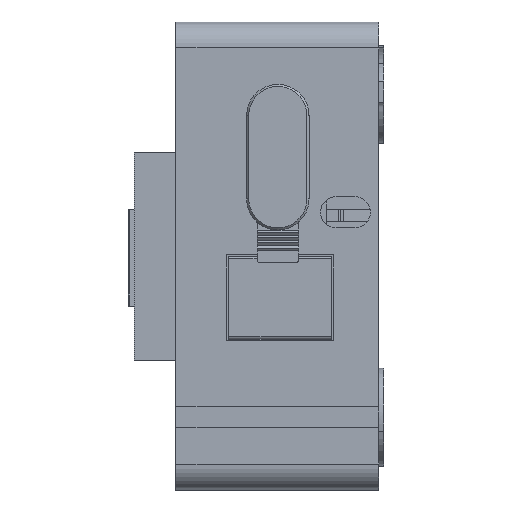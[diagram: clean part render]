
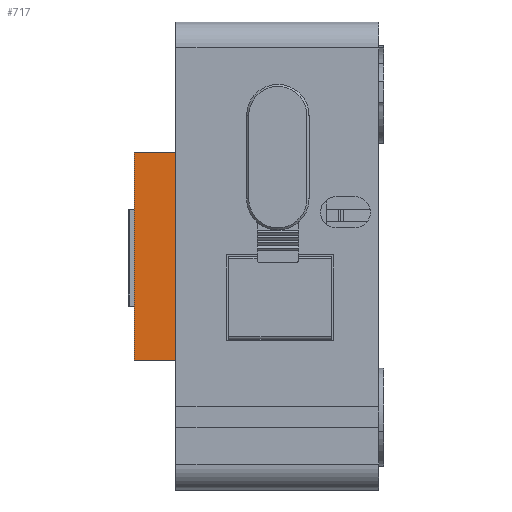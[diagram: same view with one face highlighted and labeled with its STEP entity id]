
A CAD part, left-side view. The second image highlights one B-rep face of the part: STEP entity #717.
In plain terms, the highlighted planar face has unit normal (-1, 0, 0).
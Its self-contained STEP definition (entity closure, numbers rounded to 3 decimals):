
#717 = ADVANCED_FACE( '', ( #2456 ), #2457, .T. );
#2456 = FACE_OUTER_BOUND( '', #4626, .T. );
#2457 = PLANE( '', #4627 );
#4626 = EDGE_LOOP( '', ( #11453, #11454, #11455, #11456, #11457, #11458, #11459, #11460 ) );
#4627 = AXIS2_PLACEMENT_3D( '', #11461, #11462, #11463 );
#11453 = ORIENTED_EDGE( '', *, *, #15960, .T. );
#11454 = ORIENTED_EDGE( '', *, *, #15886, .F. );
#11455 = ORIENTED_EDGE( '', *, *, #16968, .F. );
#11456 = ORIENTED_EDGE( '', *, *, #16878, .T. );
#11457 = ORIENTED_EDGE( '', *, *, #16969, .T. );
#11458 = ORIENTED_EDGE( '', *, *, #15870, .F. );
#11459 = ORIENTED_EDGE( '', *, *, #15957, .T. );
#11460 = ORIENTED_EDGE( '', *, *, #15968, .T. );
#11461 = CARTESIAN_POINT( '', ( 19.9, 23.5, 32.5 ) );
#11462 = DIRECTION( '', ( -1., 0., 0. ) );
#11463 = DIRECTION( '', ( 0., 1., 0. ) );
#15870 = EDGE_CURVE( '', #19867, #19869, #19870, .T. );
#15886 = EDGE_CURVE( '', #19899, #19901, #19902, .T. );
#15957 = EDGE_CURVE( '', #19867, #20029, #20031, .T. );
#15960 = EDGE_CURVE( '', #20032, #19901, #20036, .T. );
#15968 = EDGE_CURVE( '', #20029, #20032, #20047, .T. );
#16878 = EDGE_CURVE( '', #21529, #21527, #21530, .T. );
#16968 = EDGE_CURVE( '', #21529, #19899, #21666, .T. );
#16969 = EDGE_CURVE( '', #21527, #19869, #21667, .T. );
#19867 = VERTEX_POINT( '', #25876 );
#19869 = VERTEX_POINT( '', #25879 );
#19870 = LINE( '', #25880, #25881 );
#19899 = VERTEX_POINT( '', #25924 );
#19901 = VERTEX_POINT( '', #25927 );
#19902 = LINE( '', #25928, #25929 );
#20029 = VERTEX_POINT( '', #26131 );
#20031 = LINE( '', #26134, #26135 );
#20032 = VERTEX_POINT( '', #26136 );
#20036 = LINE( '', #26142, #26143 );
#20047 = LINE( '', #26161, #26162 );
#21527 = VERTEX_POINT( '', #28443 );
#21529 = VERTEX_POINT( '', #28446 );
#21530 = LINE( '', #28447, #28448 );
#21666 = LINE( '', #28658, #28659 );
#21667 = LINE( '', #28660, #28661 );
#25876 = CARTESIAN_POINT( '', ( 19.9, 7., 27.25 ) );
#25879 = CARTESIAN_POINT( '', ( 19.9, 7., 12.5 ) );
#25880 = CARTESIAN_POINT( '', ( 19.9, 7., 16.25 ) );
#25881 = VECTOR( '', #31934, 1. );
#25924 = CARTESIAN_POINT( '', ( 19.9, 7., 32.5 ) );
#25927 = CARTESIAN_POINT( '', ( 19.9, 7., 28.75 ) );
#25928 = CARTESIAN_POINT( '', ( 19.9, 7., 16.25 ) );
#25929 = VECTOR( '', #31950, 1. );
#26131 = CARTESIAN_POINT( '', ( 19.9, 14.4, 27.25 ) );
#26134 = CARTESIAN_POINT( '', ( 19.9, 15.25, 27.25 ) );
#26135 = VECTOR( '', #32027, 1. );
#26136 = CARTESIAN_POINT( '', ( 19.9, 14.4, 28.75 ) );
#26142 = CARTESIAN_POINT( '', ( 19.9, 15.25, 28.75 ) );
#26143 = VECTOR( '', #32030, 1. );
#26161 = CARTESIAN_POINT( '', ( 19.9, 14.4, 16.25 ) );
#26162 = VECTOR( '', #32038, 1. );
#28443 = CARTESIAN_POINT( '', ( 19.9, 23.5, 12.5 ) );
#28446 = CARTESIAN_POINT( '', ( 19.9, 23.5, 32.5 ) );
#28447 = CARTESIAN_POINT( '', ( 19.9, 23.5, 32.5 ) );
#28448 = VECTOR( '', #33162, 1. );
#28658 = CARTESIAN_POINT( '', ( 19.9, 23.5, 32.5 ) );
#28659 = VECTOR( '', #33282, 1. );
#28660 = CARTESIAN_POINT( '', ( 19.9, 23.5, 12.5 ) );
#28661 = VECTOR( '', #33283, 1. );
#31934 = DIRECTION( '', ( 0., 0., -1. ) );
#31950 = DIRECTION( '', ( 0., 0., -1. ) );
#32027 = DIRECTION( '', ( 0., 1., 0. ) );
#32030 = DIRECTION( '', ( 0., -1., 0. ) );
#32038 = DIRECTION( '', ( 0., 0., 1. ) );
#33162 = DIRECTION( '', ( 0., 0., -1. ) );
#33282 = DIRECTION( '', ( 0., -1., 0. ) );
#33283 = DIRECTION( '', ( 0., -1., 0. ) );
